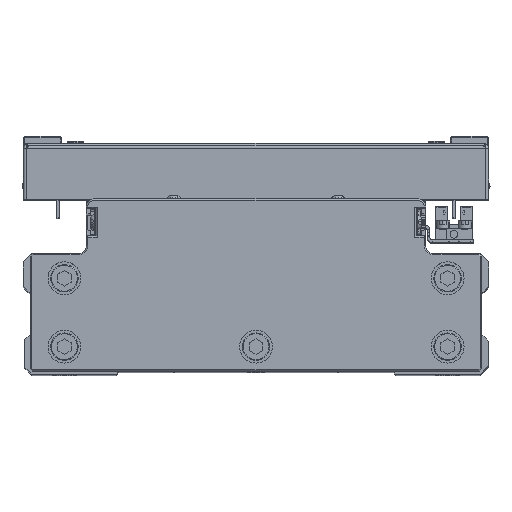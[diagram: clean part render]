
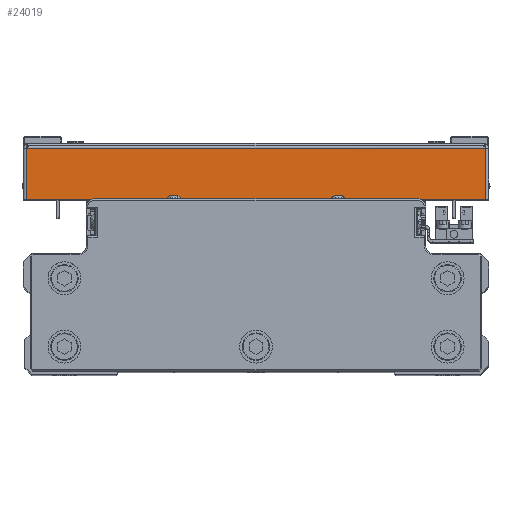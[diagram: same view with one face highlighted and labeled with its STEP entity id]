
A CAD part, top view. The second image highlights one B-rep face of the part: STEP entity #24019.
In plain terms, the highlighted planar face has unit normal (0, 0, 1) as drawn and (1, 0, 0) by its records, which use the part's own axes.
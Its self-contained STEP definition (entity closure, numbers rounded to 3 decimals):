
#1727 = LINE ( 'NONE', #15397, #7907 ) ;
#2365 = CARTESIAN_POINT ( 'NONE',  ( 110., 1., -83.929 ) ) ;
#3581 = VERTEX_POINT ( 'NONE', #27958 ) ;
#3644 = VERTEX_POINT ( 'NONE', #4423 ) ;
#4184 = EDGE_CURVE ( 'NONE', #3581, #3644, #35490, .T. ) ;
#4423 = CARTESIAN_POINT ( 'NONE',  ( 110., 19.5, 83.929 ) ) ;
#4793 = CARTESIAN_POINT ( 'NONE',  ( 110., 0., 83.929 ) ) ;
#5511 = DIRECTION ( 'NONE',  ( 0., 1., 0. ) ) ;
#7907 = VECTOR ( 'NONE', #29052, 1000. ) ;
#8042 = LINE ( 'NONE', #21699, #43620 ) ;
#11188 = ORIENTED_EDGE ( 'NONE', *, *, #18554, .F. ) ;
#13580 = DIRECTION ( 'NONE',  ( -1., 0., 0. ) ) ;
#15397 = CARTESIAN_POINT ( 'NONE',  ( 110., 19.5, 0. ) ) ;
#16040 = EDGE_CURVE ( 'NONE', #17523, #3644, #1727, .T. ) ;
#16272 = VECTOR ( 'NONE', #18482, 1000. ) ;
#16930 = FACE_OUTER_BOUND ( 'NONE', #21478, .T. ) ;
#17523 = VERTEX_POINT ( 'NONE', #35051 ) ;
#18482 = DIRECTION ( 'NONE',  ( 0., 1., 0. ) ) ;
#18554 = EDGE_CURVE ( 'NONE', #37871, #3581, #8042, .T. ) ;
#21478 = EDGE_LOOP ( 'NONE', ( #11188, #23521, #34848, #32291 ) ) ;
#21699 = CARTESIAN_POINT ( 'NONE',  ( 110., 1., 85. ) ) ;
#22545 = LINE ( 'NONE', #36210, #34807 ) ;
#23521 = ORIENTED_EDGE ( 'NONE', *, *, #24590, .T. ) ;
#24019 = ADVANCED_FACE ( 'NONE', ( #16930 ), #30583, .F. ) ;
#24590 = EDGE_CURVE ( 'NONE', #37871, #17523, #22545, .T. ) ;
#27244 = DIRECTION ( 'NONE',  ( 0., -1., 0. ) ) ;
#27958 = CARTESIAN_POINT ( 'NONE',  ( 110., 1., 83.929 ) ) ;
#29029 = AXIS2_PLACEMENT_3D ( 'NONE', #44266, #13580, #27244 ) ;
#29052 = DIRECTION ( 'NONE',  ( 0., 0., 1. ) ) ;
#30583 = PLANE ( 'NONE',  #29029 ) ;
#32291 = ORIENTED_EDGE ( 'NONE', *, *, #4184, .F. ) ;
#34807 = VECTOR ( 'NONE', #5511, 1000. ) ;
#34848 = ORIENTED_EDGE ( 'NONE', *, *, #16040, .T. ) ;
#35051 = CARTESIAN_POINT ( 'NONE',  ( 110., 19.5, -83.929 ) ) ;
#35359 = DIRECTION ( 'NONE',  ( 0., 0., 1. ) ) ;
#35490 = LINE ( 'NONE', #4793, #16272 ) ;
#36210 = CARTESIAN_POINT ( 'NONE',  ( 110., 0., -83.929 ) ) ;
#37871 = VERTEX_POINT ( 'NONE', #2365 ) ;
#43620 = VECTOR ( 'NONE', #35359, 1000. ) ;
#44266 = CARTESIAN_POINT ( 'NONE',  ( 110., 0., 0. ) ) ;
